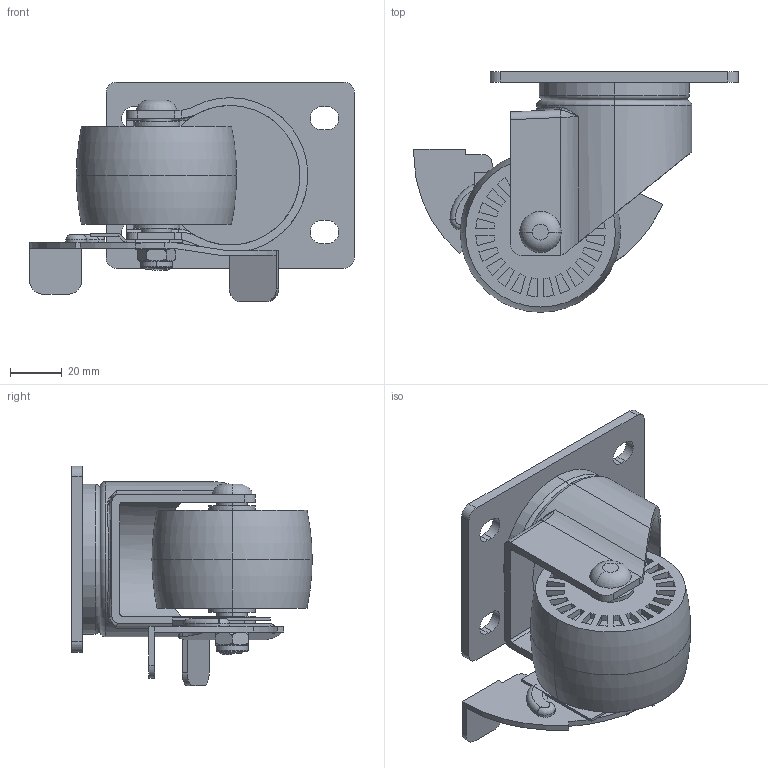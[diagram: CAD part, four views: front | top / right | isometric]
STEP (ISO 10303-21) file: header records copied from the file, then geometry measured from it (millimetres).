
FILE_DESCRIPTION (( 'STEP AP203' ), '1' );
FILE_NAME ('25JPB.STEP', '2018-01-26T06:23:02', ( '' ), ( '' ), 'SwSTEP 2.0', 'SolidWorks 2014', '' );
FILE_SCHEMA (( 'CONFIG_CONTROL_DESIGN' ));
Length unit declared in the file: millimetre
Products named in the file (10): O ring; 25JPB; 剎車架美國-B; 輪-美國25; 活動架美國-25; 套管; 底盤美國-7544T4; 螺絲M8X65; 螺帽M8; 剎車架美國-A
Assembly tree (10 placements, depth 2):
  25JPB
    活動架美國-25
    輪-美國25
    套管
    螺帽M8
    螺絲M8X65
    O ring  x2
    剎車架美國-B
    剎車架美國-A
    底盤美國-7544T4
Bounding box: 125.5 x 93 x 85 mm (x, y, z)
Volume: 192097.8 mm3; surface area: 72201.4 mm2
Topology: 10 solids, 10 shells, 518 faces, 1264 edges, 822 vertices
Faces by surface type: plane 261, cylinder 203, torus 41, bspline 13
Full cylindrical faces by diameter (mm): 8 x10
Entity records: 18685 total; most frequent: CARTESIAN_POINT 5279, DIRECTION 2627, ORIENTED_EDGE 2538, EDGE_CURVE 1269, AXIS2_PLACEMENT_3D 965, VERTEX_POINT 834, VECTOR 697, LINE 697
